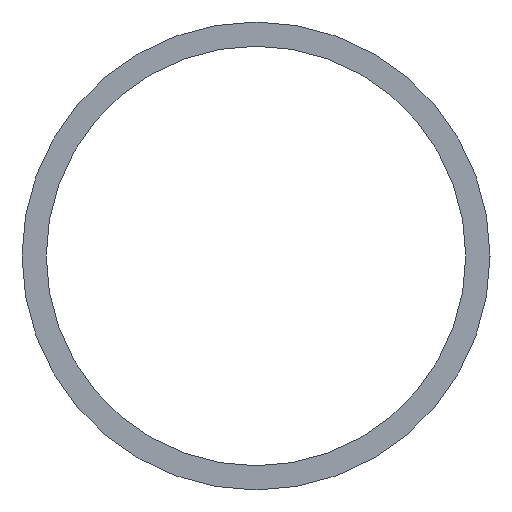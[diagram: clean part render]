
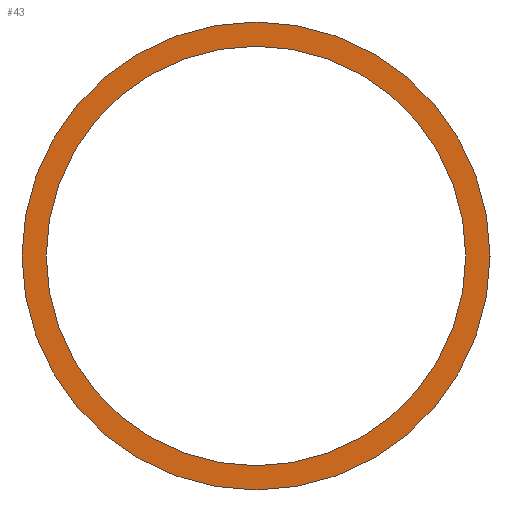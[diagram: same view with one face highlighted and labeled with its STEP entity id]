
A CAD part, left-side view. The second image highlights one B-rep face of the part: STEP entity #43.
In plain terms, the highlighted planar face has unit normal (-1, 0, 0).
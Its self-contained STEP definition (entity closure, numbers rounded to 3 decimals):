
#7 = DIRECTION ( 'NONE',  ( 0., 1., 0. ) ) ;
#11 = EDGE_CURVE ( 'NONE', #56, #29, #31, .T. ) ;
#29 = VERTEX_POINT ( 'NONE', #92 ) ;
#31 = CIRCLE ( 'NONE', #188, 21.65 ) ;
#34 = PLANE ( 'NONE',  #202 ) ;
#38 = EDGE_CURVE ( 'NONE', #29, #56, #178, .T. ) ;
#43 = ADVANCED_FACE ( 'NONE', ( #161, #200 ), #34, .F. ) ;
#46 = CARTESIAN_POINT ( 'NONE',  ( 3030.5, 3775., 6275.85 ) ) ;
#54 = AXIS2_PLACEMENT_3D ( 'NONE', #46, #124, #127 ) ;
#55 = VERTEX_POINT ( 'NONE', #144 ) ;
#56 = VERTEX_POINT ( 'NONE', #165 ) ;
#71 = ORIENTED_EDGE ( 'NONE', *, *, #211, .F. ) ;
#75 = CARTESIAN_POINT ( 'NONE',  ( 3030.5, 3775., 6275.85 ) ) ;
#78 = DIRECTION ( 'NONE',  ( 1., 0., 0. ) ) ;
#87 = ORIENTED_EDGE ( 'NONE', *, *, #11, .T. ) ;
#88 = CIRCLE ( 'NONE', #54, 24.15 ) ;
#90 = ORIENTED_EDGE ( 'NONE', *, *, #94, .F. ) ;
#91 = DIRECTION ( 'NONE',  ( 0., 0., 1. ) ) ;
#92 = CARTESIAN_POINT ( 'NONE',  ( 3030.5, 3796.65, 6275.85 ) ) ;
#93 = DIRECTION ( 'NONE',  ( 1., 0., 0. ) ) ;
#94 = EDGE_CURVE ( 'NONE', #209, #55, #88, .T. ) ;
#95 = DIRECTION ( 'NONE',  ( 0., 1., 0. ) ) ;
#104 = AXIS2_PLACEMENT_3D ( 'NONE', #112, #78, #7 ) ;
#108 = CARTESIAN_POINT ( 'NONE',  ( 3030.5, 3775., 6275.85 ) ) ;
#112 = CARTESIAN_POINT ( 'NONE',  ( 3030.5, 3775., 6275.85 ) ) ;
#124 = DIRECTION ( 'NONE',  ( 1., 0., 0. ) ) ;
#127 = DIRECTION ( 'NONE',  ( 0., 1., 0. ) ) ;
#137 = EDGE_LOOP ( 'NONE', ( #71, #90 ) ) ;
#144 = CARTESIAN_POINT ( 'NONE',  ( 3030.5, 3799.15, 6275.85 ) ) ;
#146 = CARTESIAN_POINT ( 'NONE',  ( 3030.5, 3775., 6275.85 ) ) ;
#153 = AXIS2_PLACEMENT_3D ( 'NONE', #108, #166, #185 ) ;
#154 = ORIENTED_EDGE ( 'NONE', *, *, #38, .T. ) ;
#161 = FACE_BOUND ( 'NONE', #179, .T. ) ;
#165 = CARTESIAN_POINT ( 'NONE',  ( 3030.5, 3753.35, 6275.85 ) ) ;
#166 = DIRECTION ( 'NONE',  ( 1., 0., 0. ) ) ;
#171 = CARTESIAN_POINT ( 'NONE',  ( 3030.5, 3750.85, 6275.85 ) ) ;
#178 = CIRCLE ( 'NONE', #153, 21.65 ) ;
#179 = EDGE_LOOP ( 'NONE', ( #154, #87 ) ) ;
#181 = CIRCLE ( 'NONE', #104, 24.15 ) ;
#185 = DIRECTION ( 'NONE',  ( 0., 1., 0. ) ) ;
#188 = AXIS2_PLACEMENT_3D ( 'NONE', #75, #93, #95 ) ;
#197 = DIRECTION ( 'NONE',  ( 1., 0., 0. ) ) ;
#200 = FACE_OUTER_BOUND ( 'NONE', #137, .T. ) ;
#202 = AXIS2_PLACEMENT_3D ( 'NONE', #146, #197, #91 ) ;
#209 = VERTEX_POINT ( 'NONE', #171 ) ;
#211 = EDGE_CURVE ( 'NONE', #55, #209, #181, .T. ) ;
